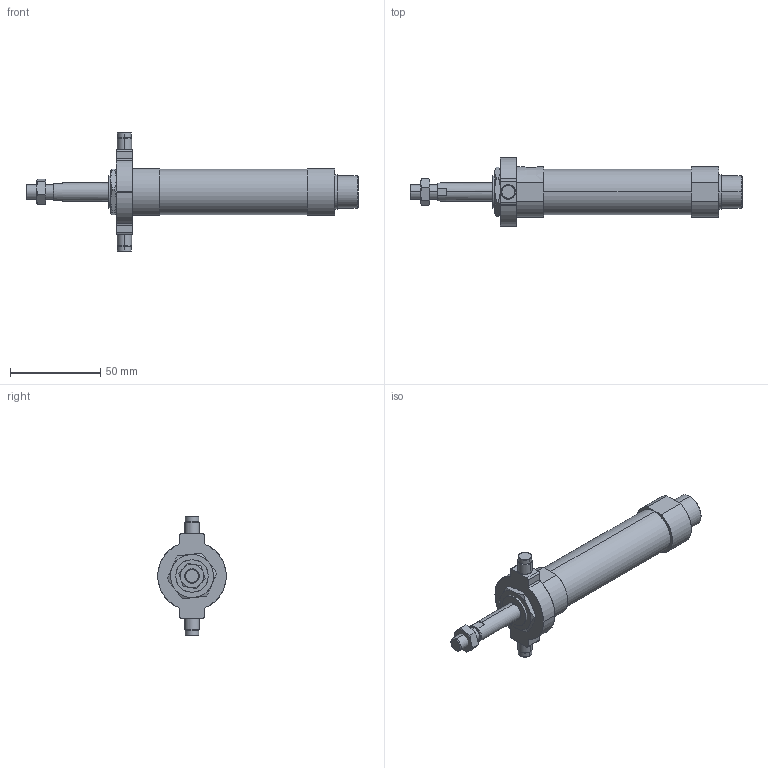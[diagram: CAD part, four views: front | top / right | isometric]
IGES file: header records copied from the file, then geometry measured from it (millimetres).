
Start section: SolidWorks IGES file using analytic representation for surfaces
Global section: file name: C:\Users\Toshiba\Desktop\J#0-20-25-T.IGS; native system: SolidWorks 2014; preprocessor: SolidWorks 2014; author: Toshiba; date: 160308.142649; units: millimetre
Bounding box: 184 x 38 x 66 mm (x, y, z)
Surface area: 19349.6 mm2 (no closed solid volume)
Topology: 0 solids, 0 shells, 128 faces, 2018 edges, 2018 vertices
Faces by surface type: bspline 69, revolution 59
